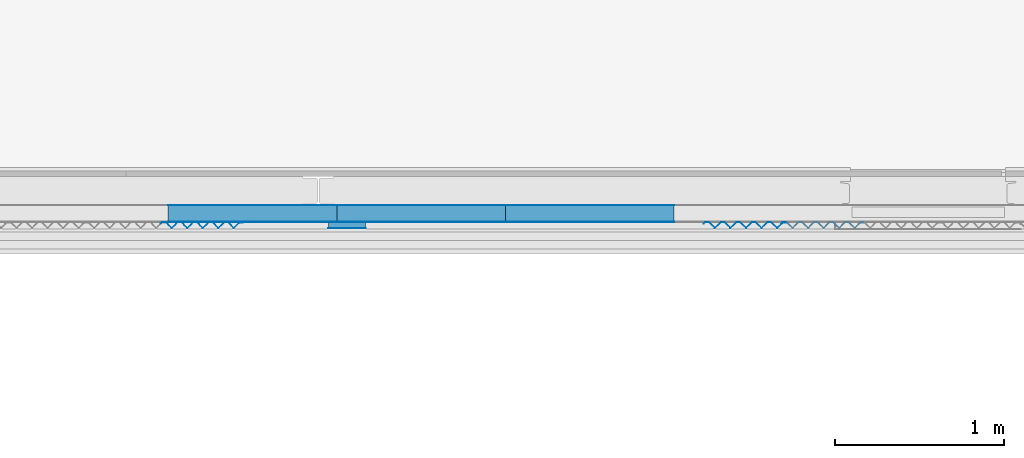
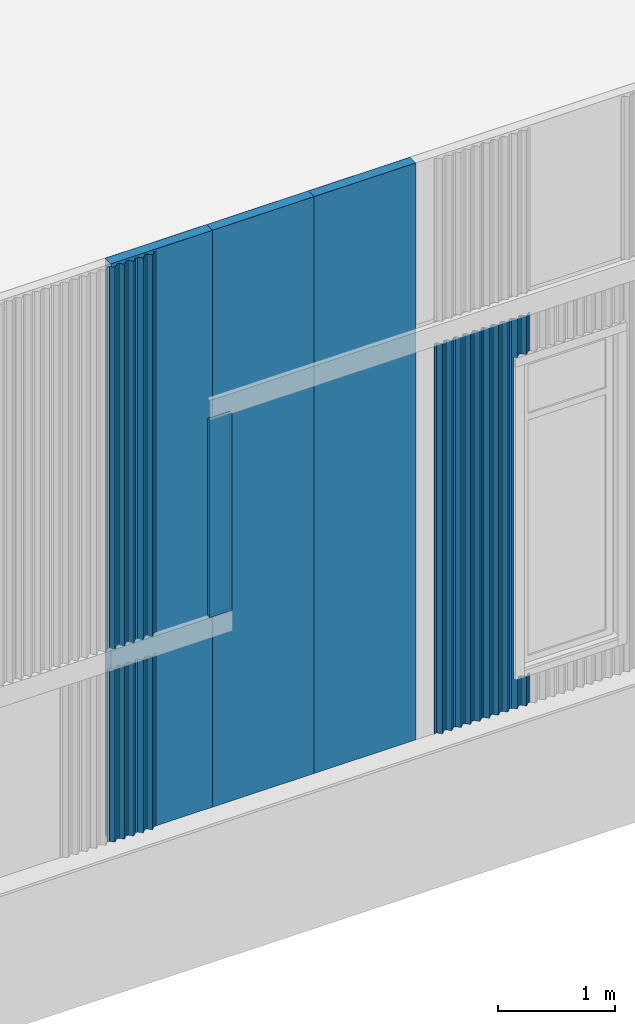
# One storey, part 89 of 338: 16 building element parts, 7 elements without a shape of their own.
"""IFC2X3 building model written with IfcOpenShell, lengths in millimetres."""

from ifc_helpers import new_model, entity, si_unit, converted_unit, derived_unit, money_unit, direction, frame, origin_with_axes, place, context, subcontext, project, spatial, faceted_brep, material, type_object, element, aggregate, save


model = new_model("IFC2X3")

# Units and contexts
model_context = context("Model", 3, precision=0.01, world=origin_with_axes(), true_north=direction((0.0, 1.0)))
plan_context = context("Plan", 3, precision=0.01, world=origin_with_axes(), true_north=direction((0.0, 1.0)))
body_context = subcontext(model_context, "Body", "Model", "MODEL_VIEW")
ifc_project = project(units=[si_unit("LENGTHUNIT", "METRE", prefix="MILLI"), si_unit("AREAUNIT", "SQUARE_METRE"), si_unit("VOLUMEUNIT", "CUBIC_METRE"), converted_unit("PLANEANGLEUNIT", "DEGREE", entity("IfcPlaneAngleMeasure", 0.0174532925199), si_unit("PLANEANGLEUNIT", "RADIAN"), dimensions=[0, 0, 0, 0, 0, 0, 0]), money_unit("EUR"), converted_unit("TIMEUNIT", "Year", entity("IfcTimeMeasure", 31556926.0), si_unit("TIMEUNIT", "SECOND"), dimensions=[0, 0, 1, 0, 0, 0, 0]), si_unit("MASSUNIT", "GRAM", prefix="KILO"), si_unit("THERMODYNAMICTEMPERATUREUNIT", "DEGREE_CELSIUS"), si_unit("LUMINOUSINTENSITYUNIT", "LUMEN"), si_unit("ENERGYUNIT", "JOULE", prefix="MEGA"), derived_unit("THERMALCONDUCTANCEUNIT", [(si_unit("POWERUNIT", "WATT"), 1), (si_unit("LENGTHUNIT", "METRE"), -1), (si_unit("THERMODYNAMICTEMPERATUREUNIT", "KELVIN"), -1)]), derived_unit("SPECIFICHEATCAPACITYUNIT", [(si_unit("ENERGYUNIT", "JOULE"), 1), (si_unit("MASSUNIT", "GRAM", prefix="KILO"), -1), (si_unit("THERMODYNAMICTEMPERATUREUNIT", "KELVIN"), -1)]), derived_unit("MASSDENSITYUNIT", [(si_unit("MASSUNIT", "GRAM", prefix="KILO"), 1), (si_unit("VOLUMEUNIT", "CUBIC_METRE"), -1)])], contexts=[model_context, plan_context])

# Site, building, storey
site_placement = place(None, origin_with_axes())
site = spatial("IfcSite", under=ifc_project, at=site_placement, Name="Fortuinstraat Woensdrecht", CompositionType="ELEMENT")
building_placement = place(site_placement, origin_with_axes())
building = spatial("IfcBuilding", under=site, at=building_placement, Name="IKC Fortuna", CompositionType="ELEMENT")
storey_placement = place(building_placement, origin_with_axes())
storey = spatial("IfcBuildingStorey", under=building, at=storey_placement, Name="00 begane grond", CompositionType="ELEMENT", Elevation=0.0)

# Wall, building element parts
wall_type_1 = type_object("IfcWallType", Name="21 sandwich 100", PredefinedType="NOTDEFINED")
wall_1_placement = place(storey_placement, frame((41093.4131798, 20996.2966283, 1000.0), z_axis=(0.0, 0.0, 1.0), x_axis=(-1.0, 0.0, 0.0)))
wall_1 = element("IfcWall", 1, at=wall_1_placement, inside=storey, type_object=wall_type_1, Name="21_Wand_sandwichplaat")
ifc_material_1 = material(Name="Metaal - Aluminium")
building_element_part_1_placement = place(wall_1_placement, origin_with_axes())
building_element_part_1 = element("IfcBuildingElementPart", 2, at=building_element_part_1_placement, material=ifc_material_1, Name="Metaal - Aluminium", context=body_context, shape_type="Brep", body=[
    faceted_brep([(0.0, 100.0, 6000.0), (0.0, 99.0, 6000.0), (1000.0, 99.0, 6000.0), (1000.0, 100.0, 6000.0), (0.0, 100.0, 0.0), (0.0, 99.0, 0.0), (1000.0, 99.0, 0.0), (1000.0, 100.0, 0.0)], [[[0, 1, 2, 3]], [[4, 5, 1, 0]], [[1, 5, 6, 2]], [[7, 3, 2, 6]], [[4, 0, 3, 7]], [[5, 4, 7, 6]]]),
])
ifc_material_2 = material(Name="Isolatie - Kunststof hard")
building_element_part_2_placement = place(wall_1_placement, origin_with_axes())
building_element_part_2 = element("IfcBuildingElementPart", 3, at=building_element_part_2_placement, material=ifc_material_2, Name="Isolatie - Kunststof hard", context=body_context, shape_type="Brep", body=[
    faceted_brep([(0.0, 1.0, 6000.0), (1000.0, 1.0, 6000.0), (1000.0, 99.0, 6000.0), (0.0, 99.0, 6000.0), (0.0, 1.0, 0.0), (1000.0, 1.0, 0.0), (1000.0, 99.0, 0.0), (0.0, 99.0, 0.0)], [[[0, 1, 2, 3]], [[4, 5, 1, 0]], [[2, 1, 5, 6]], [[3, 2, 6, 7]], [[4, 0, 3, 7]], [[7, 6, 5, 4]]]),
])
building_element_part_3_placement = place(wall_1_placement, origin_with_axes())
building_element_part_3 = element("IfcBuildingElementPart", 4, at=building_element_part_3_placement, material=ifc_material_1, Name="Metaal - Aluminium", context=body_context, shape_type="Brep", body=[
    faceted_brep([(1000.0, 1.0, 6000.0), (1000.0, 0.999999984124, 18.9261694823), (0.0, 0.999999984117, 18.9261694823), (0.0, 1.0, 6000.0), (1000.0, 0.0, 18.9263474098), (1000.0, 0.0, 6000.0), (0.0, 0.0, 18.9263474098), (0.0, 0.0, 6000.0), (209.986122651, 0.0, 4971.4957557), (9.98612265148, 0.0, 4971.4957557), (9.98612265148, 0.0, 4987.4980203), (83.8861226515, 0.0, 4987.4980203), (136.086122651, 0.0, 4987.4980203), (209.986122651, 0.0, 4987.4980203), (209.986122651, 0.269168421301, 4971.50028457), (9.98612265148, 0.269168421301, 4971.50028457)], [[[0, 1, 2, 3]], [[4, 1, 0, 5]], [[1, 4, 6, 2]], [[3, 2, 6, 7]], [[5, 0, 3, 7]], [[4, 5, 7, 6], [8, 9, 10, 11, 12, 13]], [[9, 8, 14, 15]], [[9, 15, 10]], [[13, 12, 11, 10, 15, 14]], [[13, 14, 8]]]),
])
aggregate(wall_1, [building_element_part_1, building_element_part_2, building_element_part_3])

wall_type_2 = type_object("IfcWallType", Name="21 Plankprofiel 37", PredefinedType="NOTDEFINED")
wall_2_placement = place(storey_placement, frame((41263.4270571, 20996.2966283, 3010.0), z_axis=(0.0, 0.0, 1.0), x_axis=(-1.0, 0.0, 0.0)))
wall_2 = element("IfcWall", 5, at=wall_2_placement, inside=storey, type_object=wall_type_2, Name="21_Wand_sandwichplaat")
building_element_part_4_placement = place(wall_2_placement, origin_with_axes())
building_element_part_4 = element("IfcBuildingElementPart", 6, at=building_element_part_4_placement, material=ifc_material_1, Name="Metaal - Aluminium", context=body_context, shape_type="Brep", body=[
    faceted_brep([(220.0, 136.0, 2050.85690076), (220.0, 137.0, 2050.85690076), (0.0, 137.0, 2050.85690076), (0.0, 136.0, 2050.85690076), (220.0, 136.0, 0.0), (220.0, 137.0, 0.0), (0.0, 137.0, 0.0), (0.0, 136.0, 0.0)], [[[0, 1, 2, 3]], [[0, 4, 5, 1]], [[1, 5, 6, 2]], [[3, 2, 6, 7]], [[4, 0, 3, 7]], [[5, 4, 7, 6]]]),
])
building_element_part_5_placement = place(wall_2_placement, origin_with_axes())
building_element_part_5 = element("IfcBuildingElementPart", 7, at=building_element_part_5_placement, material=ifc_material_2, Name="Isolatie - Kunststof hard", context=body_context, shape_type="Brep", body=[
    faceted_brep([(220.0, 101.0, 2050.85690076), (220.0, 136.0, 2050.85690076), (0.0, 136.0, 2050.85690076), (0.0, 101.0, 2050.85690076), (220.0, 101.0, 0.0), (220.0, 136.0, 0.0), (0.0, 136.0, 0.0), (0.0, 101.0, 0.0)], [[[0, 1, 2, 3]], [[0, 4, 5, 1]], [[1, 5, 6, 2]], [[3, 2, 6, 7]], [[4, 0, 3, 7]], [[5, 4, 7, 6]]]),
])
building_element_part_6_placement = place(wall_2_placement, origin_with_axes())
building_element_part_6 = element("IfcBuildingElementPart", 8, at=building_element_part_6_placement, material=ifc_material_1, Name="Metaal - Aluminium", context=body_context, shape_type="Brep", body=[
    faceted_brep([(0.0, 100.0, 2050.85690076), (220.0, 100.0, 2050.85690076), (220.0, 101.0, 2050.85690076), (0.0, 101.0, 2050.85690076), (0.0, 100.0, 0.0), (220.0, 100.0, 0.0), (220.0, 101.0, 0.0), (0.0, 101.0, 0.0)], [[[0, 1, 2, 3]], [[4, 5, 1, 0]], [[2, 1, 5, 6]], [[3, 2, 6, 7]], [[4, 0, 3, 7]], [[7, 6, 5, 4]]]),
])
aggregate(wall_2, [building_element_part_4, building_element_part_5, building_element_part_6])

wall_3_placement = place(storey_placement, frame((42093.4131798, 20996.2966283, 1000.0), z_axis=(0.0, 0.0, 1.0), x_axis=(-1.0, 0.0, 0.0)))
wall_3 = element("IfcWall", 9, at=wall_3_placement, inside=storey, type_object=wall_type_1, Name="21_Wand_sandwichplaat")
building_element_part_7_placement = place(wall_3_placement, origin_with_axes())
building_element_part_7 = element("IfcBuildingElementPart", 10, at=building_element_part_7_placement, material=ifc_material_1, Name="Metaal - Aluminium", context=body_context, shape_type="Brep", body=[
    faceted_brep([(0.0, 100.0, 6000.0), (0.0, 99.0, 6000.0), (1000.0, 99.0, 6000.0), (1000.0, 100.0, 6000.0), (0.0, 100.0, 0.0), (0.0, 99.0, 0.0), (1000.0, 99.0, 0.0), (1000.0, 100.0, 0.0)], [[[0, 1, 2, 3]], [[4, 5, 1, 0]], [[1, 5, 6, 2]], [[7, 3, 2, 6]], [[4, 0, 3, 7]], [[5, 4, 7, 6]]]),
])
building_element_part_8_placement = place(wall_3_placement, origin_with_axes())
building_element_part_8 = element("IfcBuildingElementPart", 11, at=building_element_part_8_placement, material=ifc_material_2, Name="Isolatie - Kunststof hard", context=body_context, shape_type="Brep", body=[
    faceted_brep([(0.0, 1.0, 6000.0), (1000.0, 1.0, 6000.0), (1000.0, 99.0, 6000.0), (0.0, 99.0, 6000.0), (0.0, 1.0, 0.0), (1000.0, 1.0, 0.0), (1000.0, 99.0, 0.0), (0.0, 99.0, 0.0)], [[[0, 1, 2, 3]], [[4, 5, 1, 0]], [[2, 1, 5, 6]], [[3, 2, 6, 7]], [[4, 0, 3, 7]], [[7, 6, 5, 4]]]),
])
building_element_part_9_placement = place(wall_3_placement, origin_with_axes())
building_element_part_9 = element("IfcBuildingElementPart", 12, at=building_element_part_9_placement, material=ifc_material_1, Name="Metaal - Aluminium", context=body_context, shape_type="Brep", body=[
    faceted_brep([(1000.0, 1.0, 6000.0), (1000.0, 0.999999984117, 18.9261694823), (0.0, 0.999999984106, 18.9261694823), (0.0, 1.0, 6000.0), (1000.0, 0.0, 18.9263474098), (1000.0, 0.0, 6000.0), (0.0, 0.0, 18.9263474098), (0.0, 0.0, 6000.0)], [[[0, 1, 2, 3]], [[4, 1, 0, 5]], [[1, 4, 6, 2]], [[3, 2, 6, 7]], [[5, 0, 3, 7]], [[4, 5, 7, 6]]]),
])
aggregate(wall_3, [building_element_part_7, building_element_part_8, building_element_part_9])

wall_4_placement = place(storey_placement, frame((43093.4131798, 20996.2966283, 1000.0), z_axis=(0.0, 0.0, 1.0), x_axis=(-1.0, 0.0, 0.0)))
wall_4 = element("IfcWall", 13, at=wall_4_placement, inside=storey, type_object=wall_type_1, Name="21_Wand_sandwichplaat")
building_element_part_10_placement = place(wall_4_placement, origin_with_axes())
building_element_part_10 = element("IfcBuildingElementPart", 14, at=building_element_part_10_placement, material=ifc_material_1, Name="Metaal - Aluminium", context=body_context, shape_type="Brep", body=[
    faceted_brep([(0.0, 99.0, 6000.0), (1000.0, 99.0, 6000.0), (1000.0, 100.0, 6000.0), (0.0, 100.0, 6000.0), (0.0, 99.0, 0.0), (1000.0, 99.0, 0.0), (1000.0, 100.0, 0.0), (0.0, 100.0, 0.0)], [[[0, 1, 2, 3]], [[4, 5, 1, 0]], [[2, 1, 5, 6]], [[3, 2, 6, 7]], [[4, 0, 3, 7]], [[7, 6, 5, 4]]]),
])
building_element_part_11_placement = place(wall_4_placement, origin_with_axes())
building_element_part_11 = element("IfcBuildingElementPart", 15, at=building_element_part_11_placement, material=ifc_material_2, Name="Isolatie - Kunststof hard", context=body_context, shape_type="Brep", body=[
    faceted_brep([(1000.0, 1.0, 6000.0), (1000.0, 99.0, 6000.0), (0.0, 99.0, 6000.0), (0.0, 1.0, 6000.0), (1000.0, 1.0, 0.0), (1000.0, 99.0, 0.0), (0.0, 99.0, 0.0), (0.0, 1.0, 0.0)], [[[0, 1, 2, 3]], [[0, 4, 5, 1]], [[1, 5, 6, 2]], [[3, 2, 6, 7]], [[4, 0, 3, 7]], [[5, 4, 7, 6]]]),
])
building_element_part_12_placement = place(wall_4_placement, origin_with_axes())
building_element_part_12 = element("IfcBuildingElementPart", 16, at=building_element_part_12_placement, material=ifc_material_1, Name="Metaal - Aluminium", context=body_context, shape_type="Brep", body=[
    faceted_brep([(1000.0, 1.0, 6000.0), (1000.0, 0.999999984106, 18.9261694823), (0.0, 0.999999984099, 18.9261694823), (0.0, 1.0, 6000.0), (1000.0, 0.0, 18.9263474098), (1000.0, 0.0, 6000.0), (0.0, 0.0, 18.9263474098), (0.0, 0.0, 6000.0)], [[[0, 1, 2, 3]], [[4, 1, 0, 5]], [[1, 4, 6, 2]], [[3, 2, 6, 7]], [[5, 0, 3, 7]], [[4, 5, 7, 6]]]),
])
aggregate(wall_4, [building_element_part_10, building_element_part_11, building_element_part_12])

# Proxy, building element parts
building_element_proxy_type = type_object("IfcBuildingElementProxyType", Name="21 Sandwich custom pyramid 946 x 37", PredefinedType="NOTDEFINED")
proxy_1_placement = place(storey_placement, frame((44214.9270571, 20896.2966283, 1000.0), z_axis=(0.0, 0.0, 1.0), x_axis=(-1.0, 0.0, 0.0)))
proxy_1 = element("IfcBuildingElementProxy", 17, at=proxy_1_placement, inside=storey, type_object=building_element_proxy_type, Name="41_Generieke bekleding & afwerking buiten_sandwich custom pyramid")
building_element_part_13_placement = place(proxy_1_placement, origin_with_axes())
building_element_part_13 = element("IfcBuildingElementPart", 18, at=building_element_part_13_placement, material=ifc_material_1, Name="Metaal - Aluminium", context=body_context, shape_type="Brep", body=[
    faceted_brep([(0.0, 2.39999686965, 3655.00076674), (0.0, 1.20000548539, 3655.00076674), (0.0, 1.20000548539, 4060.85690076), (0.0, 2.39999686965, 4060.85690076), (17.2342926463, 1.20000548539, 3655.00076674), (16.7470988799, 2.39999686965, 3655.00076674), (52.0000026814, 36.6736482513, 3655.00076674), (88.487191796, 1.20000548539, 3655.00076674), (107.51282048, 1.20000548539, 3655.00076674), (143.999995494, 36.6736482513, 3655.00076674), (166.169673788, 15.1198095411, 3655.00076674), (166.169673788, 13.4461433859, 3655.00076674), (143.999995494, 35.0000001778, 3655.00076674), (108.000000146, 0.0, 3655.00076674), (87.9999980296, 0.0, 3655.00076674), (52.0000026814, 35.0000001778, 3655.00076674), (17.2342926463, 1.20000548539, 4060.85690076), (16.7470988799, 2.39999686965, 4060.85690076), (52.0000026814, 35.0000001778, 4060.85690076), (87.9999980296, 0.0, 4060.85690076), (108.000000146, 0.0, 4060.85690076), (143.999995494, 35.0000001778, 4060.85690076), (180.000004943, 0.0, 4060.85690076), (199.999992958, 0.0, 4060.85690076), (236.000002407, 35.0000001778, 4060.85690076), (271.999997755, 0.0, 4060.85690076), (291.999999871, 0.0, 4060.85690076), (327.99999522, 35.0000001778, 4060.85690076), (364.000004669, 0.0, 4060.85690076), (384.000006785, 0.0, 4060.85690076), (420.000002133, 35.0000001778, 4060.85690076), (455.999997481, 0.0, 4060.85690076), (477.721464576, 0.0, 4060.85690076), (486.309372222, 8.34935896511, 4060.85690076), (485.472879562, 9.20975302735, 4060.85690076), (477.23428491, 1.20000548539, 4060.85690076), (460.000006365, 1.20000548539, 4060.85690076), (456.487191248, 1.20000548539, 4060.85690076), (420.000002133, 36.6736482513, 4060.85690076), (383.512813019, 1.20000548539, 4060.85690076), (364.487184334, 1.20000548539, 4060.85690076), (327.99999522, 36.6736482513, 4060.85690076), (291.512820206, 1.20000548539, 4060.85690076), (272.487191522, 1.20000548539, 4060.85690076), (236.000002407, 36.6736482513, 4060.85690076), (199.512813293, 1.20000548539, 4060.85690076), (180.487184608, 1.20000548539, 4060.85690076), (143.999995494, 36.6736482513, 4060.85690076), (107.51282048, 1.20000548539, 4060.85690076), (88.487191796, 1.20000548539, 4060.85690076), (52.0000026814, 36.6736482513, 4060.85690076), (180.487184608, 1.20000548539, 0.0), (143.999995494, 36.6736482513, 0.0), (143.999995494, 36.6736482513, 310.623682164), (166.169673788, 15.1198095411, 310.623682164), (166.169673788, 13.4461433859, 310.623682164), (143.999995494, 35.0000001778, 310.623682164), (143.999995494, 35.0000001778, 0.0), (180.000004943, 0.0, 0.0), (199.999992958, 0.0, 0.0), (236.000002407, 35.0000001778, 0.0), (271.999997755, 0.0, 0.0), (291.999999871, 0.0, 0.0), (327.99999522, 35.0000001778, 0.0), (364.000004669, 0.0, 0.0), (384.000006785, 0.0, 0.0), (420.000002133, 35.0000001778, 0.0), (455.999997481, 0.0, 0.0), (477.721464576, 0.0, 0.0), (486.309372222, 8.34935896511, 0.0), (485.472879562, 9.20975302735, 0.0), (477.23428491, 1.20000548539, 0.0), (460.000006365, 1.20000548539, 0.0), (456.487191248, 1.20000548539, 0.0), (420.000002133, 36.6736482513, 0.0), (383.512813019, 1.20000548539, 0.0), (364.487184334, 1.20000548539, 0.0), (327.99999522, 36.6736482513, 0.0), (291.512820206, 1.20000548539, 0.0), (272.487191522, 1.20000548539, 0.0), (236.000002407, 36.6736482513, 0.0), (199.512813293, 1.20000548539, 0.0), (0.0, 1.20000548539, 0.0), (0.0, 2.39999686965, 0.0), (16.7470988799, 2.39999686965, 0.0), (52.0000026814, 36.6736482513, 0.0), (88.487191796, 1.20000548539, 0.0), (107.51282048, 1.20000548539, 0.0), (108.000000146, 0.0, 0.0), (87.9999980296, 0.0, 0.0), (52.0000026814, 35.0000001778, 0.0), (17.2342926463, 1.20000548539, 0.0), (107.51282048, 1.20000548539, 310.623682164), (0.0, 2.39999686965, 310.623682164), (0.0, 1.20000548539, 310.623682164), (17.2342926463, 1.20000548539, 310.623682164), (52.0000026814, 35.0000001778, 310.623682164), (87.9999980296, 0.0, 310.623682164), (108.000000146, 0.0, 310.623682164), (88.487191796, 1.20000548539, 310.623682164), (52.0000026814, 36.6736482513, 310.623682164), (16.7470988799, 2.39999686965, 310.623682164)], [[[0, 1, 2, 3]], [[4, 1, 0, 5, 6, 7, 8, 9, 10, 11, 12, 13, 14, 15]], [[1, 4, 16, 2]], [[17, 3, 2, 16, 18, 19, 20, 21, 22, 23, 24, 25, 26, 27, 28, 29, 30, 31, 32, 33, 34, 35, 36, 37, 38, 39, 40, 41, 42, 43, 44, 45, 46, 47, 48, 49, 50]], [[5, 0, 3, 17]], [[6, 5, 17, 50]], [[7, 6, 50, 49]], [[8, 7, 49, 48]], [[9, 8, 48, 47]], [[10, 9, 47, 46, 51, 52, 53, 54]], [[55, 11, 10, 54]], [[55, 56, 57, 58, 22, 21, 12, 11]], [[13, 12, 21, 20]], [[14, 13, 20, 19]], [[15, 14, 19, 18]], [[4, 15, 18, 16]], [[22, 58, 59, 23]], [[23, 59, 60, 24]], [[24, 60, 61, 25]], [[25, 61, 62, 26]], [[26, 62, 63, 27]], [[27, 63, 64, 28]], [[28, 64, 65, 29]], [[29, 65, 66, 30]], [[30, 66, 67, 31]], [[31, 67, 68, 32]], [[32, 68, 69, 33]], [[33, 69, 70, 34]], [[34, 70, 71, 35]], [[35, 71, 72, 36]], [[36, 72, 73, 37]], [[37, 73, 74, 38]], [[38, 74, 75, 39]], [[39, 75, 76, 40]], [[40, 76, 77, 41]], [[41, 77, 78, 42]], [[42, 78, 79, 43]], [[43, 79, 80, 44]], [[44, 80, 81, 45]], [[45, 81, 51, 46]], [[82, 83, 84, 85, 86, 87, 52, 51, 81, 80, 79, 78, 77, 76, 75, 74, 73, 72, 71, 70, 69, 68, 67, 66, 65, 64, 63, 62, 61, 60, 59, 58, 57, 88, 89, 90, 91]], [[92, 53, 52, 87]], [[93, 94, 95, 96, 97, 98, 56, 55, 54, 53, 92, 99, 100, 101]], [[56, 98, 88, 57]], [[94, 93, 83, 82]], [[93, 101, 84, 83]], [[101, 100, 85, 84]], [[100, 99, 86, 85]], [[99, 92, 87, 86]], [[98, 97, 89, 88]], [[97, 96, 90, 89]], [[96, 95, 91, 90]], [[95, 94, 82, 91]]]),
])
building_element_part_14_placement = place(proxy_1_placement, origin_with_axes())
building_element_part_14 = element("IfcBuildingElementPart", 19, at=building_element_part_14_placement, material=ifc_material_1, Name="Metaal - Aluminium", context=body_context, shape_type="Brep", body=[
    faceted_brep([(460.0, 1.2, 0.0), (477.234285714, 1.2, 0.0), (477.234285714, 1.2, 4060.85690076), (460.0, 1.2, 4060.85690076), (460.0, 2.4, 0.0), (476.747100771, 2.4, 0.0), (512.0, 36.6736520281, 0.0), (548.487184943, 1.2, 0.0), (567.512815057, 1.2, 0.0), (604.0, 36.6736520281, 0.0), (640.487184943, 1.2, 0.0), (659.512815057, 1.2, 0.0), (696.0, 36.6736520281, 0.0), (732.487184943, 1.2, 0.0), (751.512815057, 1.2, 0.0), (788.0, 36.6736520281, 0.0), (824.487184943, 1.2, 0.0), (843.512815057, 1.2, 0.0), (880.0, 36.6736520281, 0.0), (916.487184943, 1.2, 0.0), (937.234285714, 1.2, 0.0), (945.472884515, 9.20974883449, 0.0), (946.309378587, 8.34935493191, 0.0), (937.721470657, 0.0, 0.0), (916.0, 0.0, 0.0), (880.0, 35.0, 0.0), (844.0, 0.0, 0.0), (824.0, 0.0, 0.0), (788.0, 35.0, 0.0), (752.0, 0.0, 0.0), (732.0, 0.0, 0.0), (696.0, 35.0, 0.0), (660.0, 0.0, 0.0), (640.0, 0.0, 0.0), (604.0, 35.0, 0.0), (568.0, 0.0, 0.0), (548.0, 0.0, 0.0), (512.0, 35.0, 0.0), (485.472879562, 9.20975302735, 0.0), (485.472879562, 9.20975302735, 4060.85690076), (512.0, 35.0, 4060.85690076), (548.0, 0.0, 4060.85690076), (568.0, 0.0, 4060.85690076), (604.0, 35.0, 4060.85690076), (640.0, 0.0, 4060.85690076), (660.0, 0.0, 4060.85690076), (696.0, 35.0, 4060.85690076), (732.0, 0.0, 4060.85690076), (752.0, 0.0, 4060.85690076), (788.0, 35.0, 4060.85690076), (824.0, 0.0, 4060.85690076), (844.0, 0.0, 4060.85690076), (880.0, 35.0, 4060.85690076), (916.0, 0.0, 4060.85690076), (937.721470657, 0.0, 4060.85690076), (946.309378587, 8.34935493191, 4060.85690076), (945.472884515, 9.20974883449, 4060.85690076), (937.234285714, 1.2, 4060.85690076), (916.487184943, 1.2, 4060.85690076), (880.0, 36.6736520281, 4060.85690076), (843.512815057, 1.2, 4060.85690076), (824.487184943, 1.2, 4060.85690076), (788.0, 36.6736520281, 4060.85690076), (751.512815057, 1.2, 4060.85690076), (732.487184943, 1.2, 4060.85690076), (696.0, 36.6736520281, 4060.85690076), (659.512815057, 1.2, 4060.85690076), (640.487184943, 1.2, 4060.85690076), (604.0, 36.6736520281, 4060.85690076), (567.512815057, 1.2, 4060.85690076), (548.487184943, 1.2, 4060.85690076), (512.0, 36.6736520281, 4060.85690076), (476.747100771, 2.4, 4060.85690076), (460.0, 2.4, 4060.85690076)], [[[0, 1, 2, 3]], [[0, 4, 5, 6, 7, 8, 9, 10, 11, 12, 13, 14, 15, 16, 17, 18, 19, 20, 21, 22, 23, 24, 25, 26, 27, 28, 29, 30, 31, 32, 33, 34, 35, 36, 37, 38, 1]], [[1, 38, 39, 2]], [[3, 2, 39, 40, 41, 42, 43, 44, 45, 46, 47, 48, 49, 50, 51, 52, 53, 54, 55, 56, 57, 58, 59, 60, 61, 62, 63, 64, 65, 66, 67, 68, 69, 70, 71, 72, 73]], [[4, 0, 3, 73]], [[5, 4, 73, 72]], [[6, 5, 72, 71]], [[7, 6, 71, 70]], [[8, 7, 70, 69]], [[9, 8, 69, 68]], [[10, 9, 68, 67]], [[11, 10, 67, 66]], [[12, 11, 66, 65]], [[13, 12, 65, 64]], [[14, 13, 64, 63]], [[15, 14, 63, 62]], [[16, 15, 62, 61]], [[17, 16, 61, 60]], [[18, 17, 60, 59]], [[19, 18, 59, 58]], [[20, 19, 58, 57]], [[21, 20, 57, 56]], [[22, 21, 56, 55]], [[23, 22, 55, 54]], [[24, 23, 54, 53]], [[25, 24, 53, 52]], [[26, 25, 52, 51]], [[27, 26, 51, 50]], [[28, 27, 50, 49]], [[29, 28, 49, 48]], [[30, 29, 48, 47]], [[31, 30, 47, 46]], [[32, 31, 46, 45]], [[33, 32, 45, 44]], [[34, 33, 44, 43]], [[35, 34, 43, 42]], [[36, 35, 42, 41]], [[37, 36, 41, 40]], [[38, 37, 40, 39]]]),
])
aggregate(proxy_1, [building_element_part_13, building_element_part_14])

# Proxy, building element part
proxy_2_placement = place(storey_placement, frame((40534.9270571, 20896.2966283, 3010.0), z_axis=(0.0, 0.0, 1.0), x_axis=(-1.0, 0.0, 0.0)))
proxy_2 = element("IfcBuildingElementProxy", 20, at=proxy_2_placement, inside=storey, type_object=building_element_proxy_type, Name="41_Generieke bekleding & afwerking buiten_sandwich custom pyramid")
building_element_part_15_placement = place(proxy_2_placement, origin_with_axes())
building_element_part_15 = element("IfcBuildingElementPart", 21, at=building_element_part_15_placement, material=ifc_material_1, Name="Metaal - Aluminium", context=body_context, shape_type="Brep", body=[
    faceted_brep([(0.0, 2.39999686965, 0.0), (0.0, 1.20000548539, 0.0), (0.0, 1.20000548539, 3969.99999804), (0.0, 2.39999686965, 3969.99999804), (16.7470988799, 2.39999686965, 0.0), (52.0000026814, 36.6736482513, 0.0), (88.487191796, 1.20000548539, 0.0), (107.51282048, 1.20000548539, 0.0), (143.999995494, 36.6736482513, 0.0), (180.487184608, 1.20000548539, 0.0), (199.512813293, 1.20000548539, 0.0), (236.000002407, 36.6736482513, 0.0), (272.487191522, 1.20000548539, 0.0), (291.512820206, 1.20000548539, 0.0), (327.99999522, 36.6736482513, 0.0), (364.487184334, 1.20000548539, 0.0), (383.512813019, 1.20000548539, 0.0), (420.000002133, 36.6736482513, 0.0), (456.487191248, 1.20000548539, 0.0), (460.000006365, 1.20000548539, 0.0), (477.23428491, 1.20000548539, 0.0), (485.472879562, 9.20975302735, 0.0), (486.309372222, 8.34935896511, 0.0), (477.721464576, 0.0, 0.0), (455.999997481, 0.0, 0.0), (420.000002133, 35.0000001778, 0.0), (384.000006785, 0.0, 0.0), (364.000004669, 0.0, 0.0), (327.99999522, 35.0000001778, 0.0), (291.999999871, 0.0, 0.0), (271.999997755, 0.0, 0.0), (236.000002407, 35.0000001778, 0.0), (199.999992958, 0.0, 0.0), (180.000004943, 0.0, 0.0), (143.999995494, 35.0000001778, 0.0), (108.000000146, 0.0, 0.0), (87.9999980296, 0.0, 0.0), (52.0000026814, 35.0000001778, 0.0), (17.2342926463, 1.20000548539, 0.0), (17.2342926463, 1.20000548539, 3969.99999804), (52.0000026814, 35.0000001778, 3969.99999804), (87.9999980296, 0.0, 3969.99999804), (108.000000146, 0.0, 3969.99999804), (143.999995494, 35.0000001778, 3969.99999804), (180.000004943, 0.0, 3969.99999804), (199.999992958, 0.0, 3969.99999804), (236.000002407, 35.0000001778, 3969.99999804), (271.999997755, 0.0, 3969.99999804), (291.999999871, 0.0, 3969.99999804), (327.99999522, 35.0000001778, 3969.99999804), (364.000004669, 0.0, 3969.99999804), (384.000006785, 0.0, 3969.99999804), (420.000002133, 35.0000001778, 3969.99999804), (455.999997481, 0.0, 3969.99999804), (477.721464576, 0.0, 3969.99999804), (486.309372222, 8.34935896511, 3969.99999804), (485.472879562, 9.20975302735, 3969.99999804), (477.23428491, 1.20000548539, 3969.99999804), (460.000006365, 1.20000548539, 3969.99999804), (456.487191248, 1.20000548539, 3969.99999804), (420.000002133, 36.6736482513, 3969.99999804), (383.512813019, 1.20000548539, 3969.99999804), (364.487184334, 1.20000548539, 3969.99999804), (327.99999522, 36.6736482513, 3969.99999804), (291.512820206, 1.20000548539, 3969.99999804), (272.487191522, 1.20000548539, 3969.99999804), (236.000002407, 36.6736482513, 3969.99999804), (199.512813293, 1.20000548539, 3969.99999804), (180.487184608, 1.20000548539, 3969.99999804), (143.999995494, 36.6736482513, 3969.99999804), (107.51282048, 1.20000548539, 3969.99999804), (88.487191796, 1.20000548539, 3969.99999804), (52.0000026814, 36.6736482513, 3969.99999804), (16.7470988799, 2.39999686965, 3969.99999804)], [[[0, 1, 2, 3]], [[0, 4, 5, 6, 7, 8, 9, 10, 11, 12, 13, 14, 15, 16, 17, 18, 19, 20, 21, 22, 23, 24, 25, 26, 27, 28, 29, 30, 31, 32, 33, 34, 35, 36, 37, 38, 1]], [[1, 38, 39, 2]], [[3, 2, 39, 40, 41, 42, 43, 44, 45, 46, 47, 48, 49, 50, 51, 52, 53, 54, 55, 56, 57, 58, 59, 60, 61, 62, 63, 64, 65, 66, 67, 68, 69, 70, 71, 72, 73]], [[4, 0, 3, 73]], [[5, 4, 73, 72]], [[6, 5, 72, 71]], [[7, 6, 71, 70]], [[8, 7, 70, 69]], [[9, 8, 69, 68]], [[10, 9, 68, 67]], [[11, 10, 67, 66]], [[12, 11, 66, 65]], [[13, 12, 65, 64]], [[14, 13, 64, 63]], [[15, 14, 63, 62]], [[16, 15, 62, 61]], [[17, 16, 61, 60]], [[18, 17, 60, 59]], [[19, 18, 59, 58]], [[20, 19, 58, 57]], [[21, 20, 57, 56]], [[22, 21, 56, 55]], [[23, 22, 55, 54]], [[24, 23, 54, 53]], [[25, 24, 53, 52]], [[26, 25, 52, 51]], [[27, 26, 51, 50]], [[28, 27, 50, 49]], [[29, 28, 49, 48]], [[30, 29, 48, 47]], [[31, 30, 47, 46]], [[32, 31, 46, 45]], [[33, 32, 45, 44]], [[34, 33, 44, 43]], [[35, 34, 43, 42]], [[36, 35, 42, 41]], [[37, 36, 41, 40]], [[38, 37, 40, 39]]]),
])
aggregate(proxy_2, [building_element_part_15])

proxy_3_placement = place(storey_placement, frame((40534.9270571, 20896.2966283, 1000.0), z_axis=(0.0, 0.0, 1.0), x_axis=(-1.0, 0.0, 0.0)))
proxy_3 = element("IfcBuildingElementProxy", 22, at=proxy_3_placement, inside=storey, type_object=building_element_proxy_type, Name="41_Generieke bekleding & afwerking buiten_sandwich custom pyramid")
building_element_part_16_placement = place(proxy_3_placement, origin_with_axes())
building_element_part_16 = element("IfcBuildingElementPart", 23, at=building_element_part_16_placement, material=ifc_material_1, Name="Metaal - Aluminium", context=body_context, shape_type="Brep", body=[
    faceted_brep([(0.0, 2.39999686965, 0.0), (0.0, 1.20000548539, 0.0), (0.0, 1.20000548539, 1800.85690838), (0.0, 2.39999686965, 1800.85690838), (16.7470988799, 2.39999686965, 0.0), (52.0000026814, 36.6736482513, 0.0), (88.487191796, 1.20000548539, 0.0), (107.51282048, 1.20000548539, 0.0), (143.999995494, 36.6736482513, 0.0), (180.487184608, 1.20000548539, 0.0), (199.512813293, 1.20000548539, 0.0), (236.000002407, 36.6736482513, 0.0), (272.487191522, 1.20000548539, 0.0), (291.512820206, 1.20000548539, 0.0), (327.99999522, 36.6736482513, 0.0), (364.487184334, 1.20000548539, 0.0), (383.512813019, 1.20000548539, 0.0), (420.000002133, 36.6736482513, 0.0), (456.487191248, 1.20000548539, 0.0), (460.000006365, 1.20000548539, 0.0), (477.23428491, 1.20000548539, 0.0), (485.472879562, 9.20975302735, 0.0), (486.309372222, 8.34935896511, 0.0), (477.721464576, 0.0, 0.0), (455.999997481, 0.0, 0.0), (420.000002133, 35.0000001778, 0.0), (384.000006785, 0.0, 0.0), (364.000004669, 0.0, 0.0), (327.99999522, 35.0000001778, 0.0), (291.999999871, 0.0, 0.0), (271.999997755, 0.0, 0.0), (236.000002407, 35.0000001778, 0.0), (199.999992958, 0.0, 0.0), (180.000004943, 0.0, 0.0), (143.999995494, 35.0000001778, 0.0), (108.000000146, 0.0, 0.0), (87.9999980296, 0.0, 0.0), (52.0000026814, 35.0000001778, 0.0), (17.2342926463, 1.20000548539, 0.0), (17.2342926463, 1.20000548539, 1800.85690838), (52.0000026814, 35.0000001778, 1800.85690838), (87.9999980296, 0.0, 1800.85690838), (108.000000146, 0.0, 1800.85690838), (143.999995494, 35.0000001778, 1800.85690838), (180.000004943, 0.0, 1800.85690838), (199.999992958, 0.0, 1800.85690838), (236.000002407, 35.0000001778, 1800.85690838), (271.999997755, 0.0, 1800.85690838), (291.999999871, 0.0, 1800.85690838), (327.99999522, 35.0000001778, 1800.85690838), (364.000004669, 0.0, 1800.85690838), (384.000006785, 0.0, 1800.85690838), (420.000002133, 35.0000001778, 1800.85690838), (455.999997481, 0.0, 1800.85690838), (477.721464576, 0.0, 1800.85690838), (486.309372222, 8.34935896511, 1800.85690838), (485.472879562, 9.20975302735, 1800.85690838), (477.23428491, 1.20000548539, 1800.85690838), (460.000006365, 1.20000548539, 1800.85690838), (456.487191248, 1.20000548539, 1800.85690838), (420.000002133, 36.6736482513, 1800.85690838), (383.512813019, 1.20000548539, 1800.85690838), (364.487184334, 1.20000548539, 1800.85690838), (327.99999522, 36.6736482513, 1800.85690838), (291.512820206, 1.20000548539, 1800.85690838), (272.487191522, 1.20000548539, 1800.85690838), (236.000002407, 36.6736482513, 1800.85690838), (199.512813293, 1.20000548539, 1800.85690838), (180.487184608, 1.20000548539, 1800.85690838), (143.999995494, 36.6736482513, 1800.85690838), (107.51282048, 1.20000548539, 1800.85690838), (88.487191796, 1.20000548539, 1800.85690838), (52.0000026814, 36.6736482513, 1800.85690838), (16.7470988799, 2.39999686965, 1800.85690838)], [[[0, 1, 2, 3]], [[0, 4, 5, 6, 7, 8, 9, 10, 11, 12, 13, 14, 15, 16, 17, 18, 19, 20, 21, 22, 23, 24, 25, 26, 27, 28, 29, 30, 31, 32, 33, 34, 35, 36, 37, 38, 1]], [[1, 38, 39, 2]], [[3, 2, 39, 40, 41, 42, 43, 44, 45, 46, 47, 48, 49, 50, 51, 52, 53, 54, 55, 56, 57, 58, 59, 60, 61, 62, 63, 64, 65, 66, 67, 68, 69, 70, 71, 72, 73]], [[4, 0, 3, 73]], [[5, 4, 73, 72]], [[6, 5, 72, 71]], [[7, 6, 71, 70]], [[8, 7, 70, 69]], [[9, 8, 69, 68]], [[10, 9, 68, 67]], [[11, 10, 67, 66]], [[12, 11, 66, 65]], [[13, 12, 65, 64]], [[14, 13, 64, 63]], [[15, 14, 63, 62]], [[16, 15, 62, 61]], [[17, 16, 61, 60]], [[18, 17, 60, 59]], [[19, 18, 59, 58]], [[20, 19, 58, 57]], [[21, 20, 57, 56]], [[22, 21, 56, 55]], [[23, 22, 55, 54]], [[24, 23, 54, 53]], [[25, 24, 53, 52]], [[26, 25, 52, 51]], [[27, 26, 51, 50]], [[28, 27, 50, 49]], [[29, 28, 49, 48]], [[30, 29, 48, 47]], [[31, 30, 47, 46]], [[32, 31, 46, 45]], [[33, 32, 45, 44]], [[34, 33, 44, 43]], [[35, 34, 43, 42]], [[36, 35, 42, 41]], [[37, 36, 41, 40]], [[38, 37, 40, 39]]]),
])
aggregate(proxy_3, [building_element_part_16])

save(model, "model.ifc")
